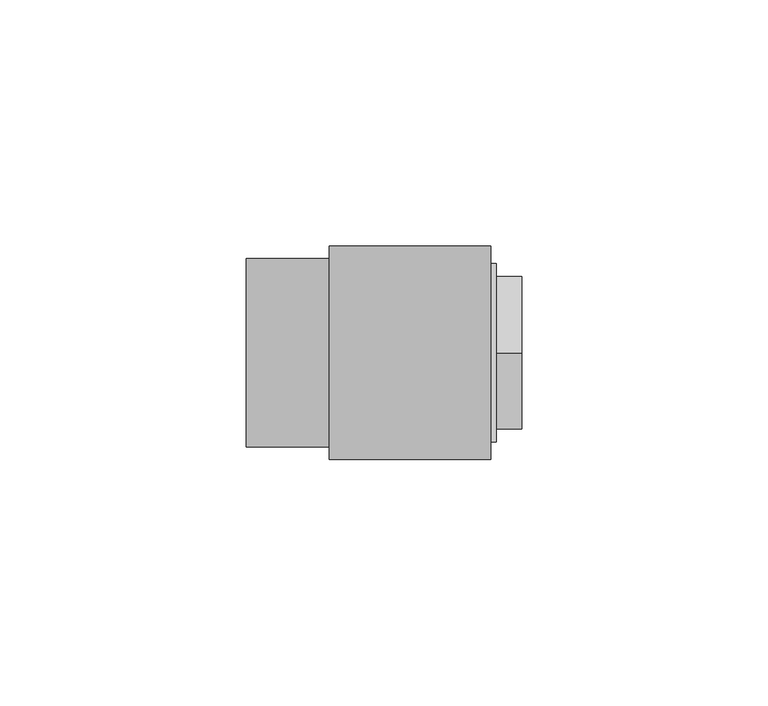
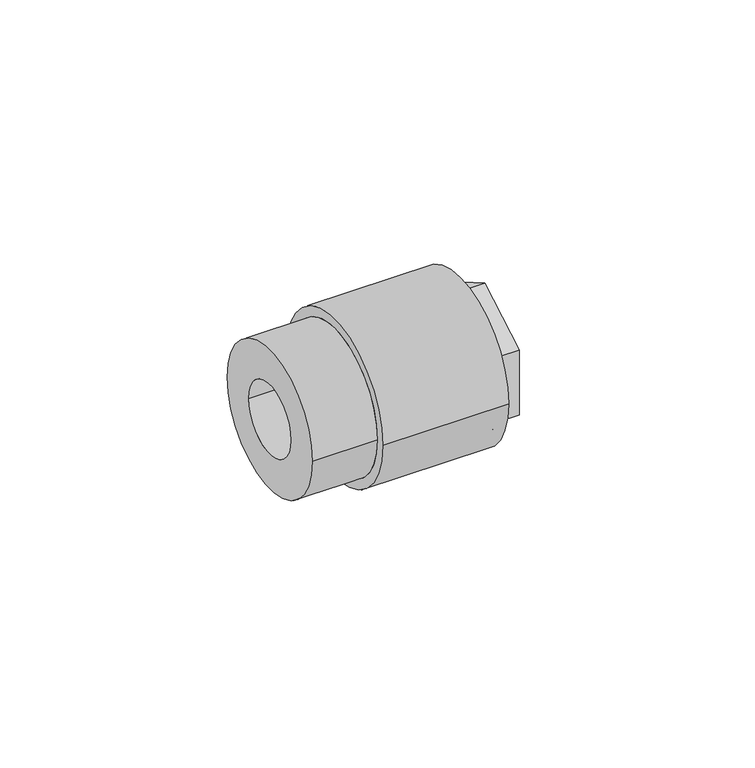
"""IFC4 building model written with IfcOpenShell, lengths in millimetres: pipe fitting geometry, Aquatherm - Fusion Outlet Transition Female : POTABLE BRASS - HEX."""

from ifc_helpers import new_model, si_unit, frame, origin, place, context, project, spatial, polyline, circle_curve, source, transform, mapped, element, save
from ifc_brep_helpers import plane_surface, cylinder_surface, revolved_surface, advanced_brep


def pipe_fitting_241ee84e(model_context):
    return source(origin(), model_context, "Body", "AdvancedBrep", [
        advanced_brep(
        [(25.62225, 12.7, 0.0), (25.62225, -12.7, 0.0), (36.5363125, -12.7, 0.0), (36.5363125, 12.7, 0.0), (25.62225, 13.49375, 0.0), (25.62225, -13.49375, 0.0), (22.44725, 13.49375, 0.0), (22.44725, -13.49375, 0.0), (22.44725, 9.525, 0.0), (22.44725, -9.525, 0.0), (19.27225, 9.525, 0.0), (19.27225, -9.525, 0.0), (19.27225, 19.177, 0.0), (19.27225, -19.177, 0.0), (32.766, 19.177, 0.0), (32.766, -19.177, 0.0), (39.116, 13.49375, 0.0), (39.116, -13.49375, 0.0), (39.116, -15.494, 0.0), (39.116, -15.494, -8.9454651), (39.116, 0.0, -17.8909301), (39.116, 15.494, -8.9454651), (39.116, 15.494, 0.0), (39.116, 15.494, 8.9454651), (39.116, 0.0, 17.8909301), (39.116, -15.494, 8.9454651), (32.766, 18.161, 0.0), (32.766, -18.161, 0.0), (33.956625, 18.161, 0.0), (33.956625, -18.161, 0.0), (33.956625, 0.0, -17.8909301), (33.956625, -15.494, -8.9454651), (33.956625, -15.494, 8.9454651), (33.956625, 0.0, 17.8909301), (33.956625, 15.494, 8.9454651), (33.956625, 15.494, -8.9454651)],
        [
            (0, 1, circle_curve(frame((25.62225, 0.0, 0.0), z_axis=(-1.0, 0.0, 0.0), x_axis=(0.0, -1.0, 0.0)), 12.7)),
            (1, 2),
            (2, 3, circle_curve(frame((36.5363125, 0.0, 0.0), z_axis=(1.0, 0.0, 0.0), x_axis=(0.0, -1.0, 0.0)), 12.7)),
            (3, 0),
            (1, 0, circle_curve(frame((25.62225, 0.0, 0.0), z_axis=(-1.0, 0.0, 0.0), x_axis=(0.0, -1.0, 0.0)), 12.7)),
            (3, 2, circle_curve(frame((36.5363125, 0.0, 0.0), z_axis=(1.0, 0.0, 0.0), x_axis=(0.0, -1.0, 0.0)), 12.7)),
            (0, 4),
            (4, 5, circle_curve(frame((25.62225, 0.0, 0.0), z_axis=(-1.0, 0.0, 0.0), x_axis=(0.0, -1.0, 0.0)), 13.49375)),
            (5, 1),
            (5, 4, circle_curve(frame((25.62225, 0.0, 0.0), z_axis=(-1.0, 0.0, 0.0), x_axis=(0.0, -1.0, 0.0)), 13.49375)),
            (4, 6),
            (6, 7, circle_curve(frame((22.44725, 0.0, 0.0), z_axis=(-1.0, 0.0, 0.0), x_axis=(0.0, -1.0, 0.0)), 13.49375)),
            (7, 5),
            (7, 6, circle_curve(frame((22.44725, 0.0, 0.0), z_axis=(-1.0, 0.0, 0.0), x_axis=(0.0, -1.0, 0.0)), 13.49375)),
            (6, 8),
            (8, 9, circle_curve(frame((22.44725, 0.0, 0.0), z_axis=(-1.0, 0.0, 0.0), x_axis=(0.0, -1.0, 0.0)), 9.525)),
            (9, 7),
            (9, 8, circle_curve(frame((22.44725, 0.0, 0.0), z_axis=(-1.0, 0.0, 0.0), x_axis=(0.0, -1.0, 0.0)), 9.525)),
            (8, 10),
            (10, 11, circle_curve(frame((19.27225, 0.0, 0.0), z_axis=(-1.0, 0.0, 0.0), x_axis=(0.0, -1.0, 0.0)), 9.525)),
            (11, 9),
            (11, 10, circle_curve(frame((19.27225, 0.0, 0.0), z_axis=(-1.0, 0.0, 0.0), x_axis=(0.0, -1.0, 0.0)), 9.525)),
            (10, 12),
            (12, 13, circle_curve(frame((19.27225, 0.0, 0.0), z_axis=(-1.0, 0.0, 0.0), x_axis=(0.0, -1.0, 0.0)), 19.177)),
            (13, 11),
            (13, 12, circle_curve(frame((19.27225, 0.0, 0.0), z_axis=(-1.0, 0.0, 0.0), x_axis=(0.0, -1.0, 0.0)), 19.177)),
            (12, 14),
            (14, 15, circle_curve(frame((32.766, 0.0, 0.0), z_axis=(-1.0, 0.0, 0.0), x_axis=(0.0, -1.0, 0.0)), 19.177)),
            (15, 13),
            (15, 14, circle_curve(frame((32.766, 0.0, 0.0), z_axis=(-1.0, 0.0, 0.0), x_axis=(0.0, -1.0, 0.0)), 19.177)),
            (16, 17, circle_curve(frame((39.116, 0.0, 0.0), z_axis=(-1.0, 0.0, 0.0), x_axis=(0.0, -1.0, 0.0)), 13.49375)),
            (17, 18),
            (18, 19),
            (19, 20),
            (20, 21),
            (21, 22),
            (22, 16),
            (17, 16, circle_curve(frame((39.116, 0.0, 0.0), z_axis=(-1.0, 0.0, 0.0), x_axis=(0.0, -1.0, 0.0)), 13.49375)),
            (22, 23),
            (23, 24),
            (24, 25),
            (25, 18),
            (2, 17),
            (16, 3),
            (14, 26),
            (26, 27, circle_curve(frame((32.766, 0.0, 0.0), z_axis=(-1.0, 0.0, 0.0), x_axis=(0.0, -1.0, 0.0)), 18.161)),
            (27, 15),
            (27, 26, circle_curve(frame((32.766, 0.0, 0.0), z_axis=(-1.0, 0.0, 0.0), x_axis=(0.0, -1.0, 0.0)), 18.161)),
            (26, 28),
            (28, 29, circle_curve(frame((33.956625, 0.0, 0.0), z_axis=(-1.0, 0.0, 0.0), x_axis=(0.0, -1.0, 0.0)), 18.161)),
            (29, 27),
            (29, 28, circle_curve(frame((33.956625, 0.0, 0.0), z_axis=(-1.0, 0.0, 0.0), x_axis=(0.0, -1.0, 0.0)), 18.161)),
            (30, 31),
            (31, 32),
            (32, 33),
            (33, 34),
            (34, 35),
            (35, 30),
            (35, 21),
            (20, 30),
            (34, 23),
            (33, 24),
            (32, 25),
            (31, 19),
        ],
        [
            revolved_surface(polyline([(36.5363125, -12.7, 0.0), (25.62225, -12.7, 0.0)]), (40.9492251, 0.0, 0.0), (1.0, 0.0, 0.0)),
            plane_surface(frame((25.62225, 0.0, 0.0), z_axis=(-1.0, 0.0, 0.0), x_axis=(0.0, -1.0, 0.0))),
            revolved_surface(polyline([(25.62225, -13.49375, 0.0), (22.44725, -13.49375, 0.0)]), (40.9492251, 0.0, 0.0), (1.0, 0.0, 0.0)),
            plane_surface(frame((22.44725, 0.0, 0.0), z_axis=(1.0, 0.0, 0.0), x_axis=(0.0, -1.0, 0.0))),
            revolved_surface(polyline([(22.44725, -9.525, 0.0), (19.27225, -9.525, 0.0)]), (40.9492251, 0.0, 0.0), (1.0, 0.0, 0.0)),
            plane_surface(frame((19.27225, 0.0, 0.0), z_axis=(-1.0, 0.0, 0.0), x_axis=(0.0, -1.0, 0.0))),
            cylinder_surface(frame((40.9492251, 0.0, 0.0), z_axis=(1.0, 0.0, 0.0), x_axis=(0.0, -1.0, 0.0)), 19.177),
            plane_surface(frame((39.116, 0.0, 0.0), z_axis=(1.0, 0.0, 0.0), x_axis=(0.0, -1.0, 0.0))),
            revolved_surface(polyline([(39.116, -13.49375, 0.0), (36.5363125, -12.7, 0.0)]), (40.9492251, 0.0, 0.0), (1.0, 0.0, 0.0)),
            plane_surface(frame((32.766, 0.0, 0.0), z_axis=(1.0, 0.0, 0.0), x_axis=(0.0, -1.0, 0.0))),
            cylinder_surface(frame((40.9492251, 0.0, 0.0), z_axis=(1.0, 0.0, 0.0), x_axis=(0.0, -1.0, 0.0)), 18.161),
            plane_surface(frame((33.956625, 15.494, -8.9454651), z_axis=(1.0000000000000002, 0.0, 0.0), x_axis=(0.0, 0.8660254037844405, 0.49999999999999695))),
            plane_surface(frame((33.956625, 0.0, -17.8909301), z_axis=(0.0, 0.49999999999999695, -0.8660254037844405), x_axis=(1.0, 0.0, 0.0))),
            plane_surface(frame((33.956625, 15.494, -8.9454651), z_axis=(0.0, 1.0, 0.0), x_axis=(1.0, 0.0, 0.0))),
            plane_surface(frame((33.956625, 15.494, 8.9454651), z_axis=(0.0, 0.5000000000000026, 0.8660254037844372), x_axis=(1.0, 0.0, 0.0))),
            plane_surface(frame((33.956625, 0.0, 17.8909301), z_axis=(0.0, -0.499999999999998, 0.8660254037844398), x_axis=(1.0, 0.0, 0.0))),
            plane_surface(frame((33.956625, -15.494, 8.9454651), z_axis=(0.0, -1.0, 0.0), x_axis=(1.0, 0.0, 0.0))),
            plane_surface(frame((33.956625, -15.494, -8.9454651), z_axis=(0.0, -0.5000000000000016, -0.8660254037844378), x_axis=(1.0, 0.0, 0.0))),
        ],
        [
            (0, [[1, 2, 3, 4]]),
            (0, [[-2, 5, -4, 6]]),
            (1, [[-1, 7, 8, 9]]),
            (1, [[-5, -9, 10, -7]]),
            (2, [[-8, 11, 12, 13]]),
            (2, [[-10, -13, 14, -11]]),
            (3, [[-12, 15, 16, 17]]),
            (3, [[-14, -17, 18, -15]]),
            (4, [[-16, 19, 20, 21]]),
            (4, [[-18, -21, 22, -19]]),
            (5, [[-20, 23, 24, 25]]),
            (5, [[-22, -25, 26, -23]]),
            (6, [[-24, 27, 28, 29]]),
            (6, [[-26, -29, 30, -27]]),
            (7, [[31, 32, 33, 34, 35, 36, 37]]),
            (7, [[38, -37, 39, 40, 41, 42, -32]]),
            (8, [[-3, 43, -31, 44]]),
            (8, [[-6, -44, -38, -43]]),
            (9, [[-28, 45, 46, 47]]),
            (9, [[-30, -47, 48, -45]]),
            (10, [[-46, 49, 50, 51]]),
            (10, [[-48, -51, 52, -49]]),
            (11, [[-50, -52], [53, 54, 55, 56, 57, 58]]),
            (12, [[-58, 59, -35, 60]]),
            (13, [[-57, 61, -39, -36, -59]]),
            (14, [[-56, 62, -40, -61]]),
            (15, [[-55, 63, -41, -62]]),
            (16, [[-54, 64, -33, -42, -63]]),
            (17, [[-53, -60, -34, -64]]),
        ],
    ),
        advanced_brep(
        [(-16.8875676, 19.177, 0.0), (-16.8875676, -19.177, 0.0), (-16.8875676, 9.525, 0.0), (-16.8875676, -9.525, 0.0), (19.27225, 19.177, 0.0), (19.27225, -19.177, 0.0), (19.27225, 9.525, 0.0), (19.27225, -9.525, 0.0), (0.0, 19.177, 0.0), (0.0, -19.177, 0.0), (32.766, 21.717, 0.0), (32.766, -21.717, 0.0), (32.766, 19.177, 0.0), (32.766, -19.177, 0.0), (0.0, 21.717, 0.0), (0.0, -21.717, 0.0)],
        [
            (0, 1, circle_curve(frame((-16.8875676, 0.0, 0.0), z_axis=(-1.0, 0.0, 0.0), x_axis=(0.0, -1.0, 0.0)), 19.177)),
            (1, 0, circle_curve(frame((-16.8875676, 0.0, 0.0), z_axis=(-1.0, 0.0, 0.0), x_axis=(0.0, -1.0, 0.0)), 19.177)),
            (2, 3, circle_curve(frame((-16.8875676, 0.0, 0.0), z_axis=(1.0, 0.0, 0.0), x_axis=(0.0, -1.0, 0.0)), 9.525)),
            (3, 2, circle_curve(frame((-16.8875676, 0.0, 0.0), z_axis=(1.0, 0.0, 0.0), x_axis=(0.0, -1.0, 0.0)), 9.525)),
            (4, 5, circle_curve(frame((19.27225, 0.0, 0.0), z_axis=(1.0, 0.0, 0.0), x_axis=(0.0, -1.0, 0.0)), 19.177)),
            (5, 4, circle_curve(frame((19.27225, 0.0, 0.0), z_axis=(1.0, 0.0, 0.0), x_axis=(0.0, -1.0, 0.0)), 19.177)),
            (6, 7, circle_curve(frame((19.27225, 0.0, 0.0), z_axis=(-1.0, 0.0, 0.0), x_axis=(0.0, -1.0, 0.0)), 9.525)),
            (7, 6, circle_curve(frame((19.27225, 0.0, 0.0), z_axis=(-1.0, 0.0, 0.0), x_axis=(0.0, -1.0, 0.0)), 9.525)),
            (2, 6),
            (7, 3),
            (0, 8),
            (8, 9, circle_curve(frame((0.0, 0.0, 0.0), z_axis=(-1.0, 0.0, 0.0), x_axis=(0.0, -1.0, 0.0)), 19.177)),
            (9, 1),
            (9, 8, circle_curve(frame((0.0, 0.0, 0.0), z_axis=(-1.0, 0.0, 0.0), x_axis=(0.0, -1.0, 0.0)), 19.177)),
            (10, 11, circle_curve(frame((32.766, 0.0, 0.0), z_axis=(1.0, 0.0, 0.0), x_axis=(0.0, -1.0, 0.0)), 21.717)),
            (11, 10, circle_curve(frame((32.766, 0.0, 0.0), z_axis=(1.0, 0.0, 0.0), x_axis=(0.0, -1.0, 0.0)), 21.717)),
            (12, 13, circle_curve(frame((32.766, 0.0, 0.0), z_axis=(-1.0, 0.0, 0.0), x_axis=(0.0, -1.0, 0.0)), 19.177)),
            (13, 12, circle_curve(frame((32.766, 0.0, 0.0), z_axis=(-1.0, 0.0, 0.0), x_axis=(0.0, -1.0, 0.0)), 19.177)),
            (14, 15, circle_curve(frame((0.0, 0.0, 0.0), z_axis=(-1.0, 0.0, 0.0), x_axis=(0.0, -1.0, 0.0)), 21.717)),
            (15, 14, circle_curve(frame((0.0, 0.0, 0.0), z_axis=(-1.0, 0.0, 0.0), x_axis=(0.0, -1.0, 0.0)), 21.717)),
            (13, 5),
            (4, 12),
            (11, 15),
            (14, 10),
        ],
        [
            plane_surface(frame((-16.8875676, -9.525, 0.0), z_axis=(-1.0, 0.0, 0.0), x_axis=(0.0, 0.0, -1.0))),
            plane_surface(frame((19.27225, -9.525, 0.0), z_axis=(1.0, 0.0, 0.0), x_axis=(0.0, 0.0, 1.0))),
            revolved_surface(polyline([(19.27225, -9.525, 0.0), (-16.887567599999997, -9.525, 0.0)]), (19.27225, 0.0, 0.0), (1.0, 0.0, 0.0)),
            cylinder_surface(frame((0.0, 0.0, 0.0), z_axis=(-1.0, 0.0, 0.0), x_axis=(0.0, -1.0, 0.0)), 19.177),
            plane_surface(frame((32.766, -19.177, 0.0), z_axis=(1.0, 0.0, 0.0), x_axis=(0.0, 0.0, 1.0))),
            plane_surface(frame((0.0, -19.177, 0.0), z_axis=(-1.0, 0.0, 0.0), x_axis=(0.0, 0.0, -1.0))),
            revolved_surface(polyline([(32.766, -19.177, 0.0), (19.27225, -19.177, 0.0)]), (32.766, 0.0, 0.0), (1.0, 0.0, 0.0)),
            cylinder_surface(frame((0.0, 0.0, 0.0), z_axis=(-1.0, 0.0, 0.0), x_axis=(0.0, -1.0, 0.0)), 21.717),
        ],
        [
            (0, [[1, 2], [3, 4]]),
            (1, [[5, 6], [7, 8]]),
            (2, [[-3, 9, -8, 10]]),
            (2, [[-4, -10, -7, -9]]),
            (3, [[-1, 11, 12, 13]]),
            (3, [[-2, -13, 14, -11]]),
            (4, [[15, 16], [17, 18]]),
            (5, [[19, 20], [-12, -14]]),
            (6, [[-18, 21, -5, 22]]),
            (6, [[-17, -22, -6, -21]]),
            (7, [[-16, 23, -19, 24]]),
            (7, [[-15, -24, -20, -23]]),
        ],
    ),
    ])


if __name__ == "__main__":
    model = new_model("IFC4")
    model_context = context("Model", 3, world=origin())
    ifc_project = project(units=[si_unit("LENGTHUNIT", "METRE", prefix="MILLI")], contexts=[model_context])
    site = spatial("IfcSite", under=ifc_project)
    building = spatial("IfcBuilding", under=site)
    placement = place(None, origin())
    pipe_fitting_shape = pipe_fitting_241ee84e(model_context)
    element("IfcPipeFitting", 1, ObjectType="Aquatherm - Fusion Outlet Transition Female : POTABLE BRASS - HEX", at=placement, inside=building, context=model_context, shape_type="MappedRepresentation", body=[
        mapped(pipe_fitting_shape, transform((0.0, 0.0, 0.0), x_axis=(1.0, 0.0, 0.0), y_axis=(0.0, 1.0, 0.0), z_axis=(0.0, 0.0, 1.0))),
    ])
    save(model, "model.ifc")
